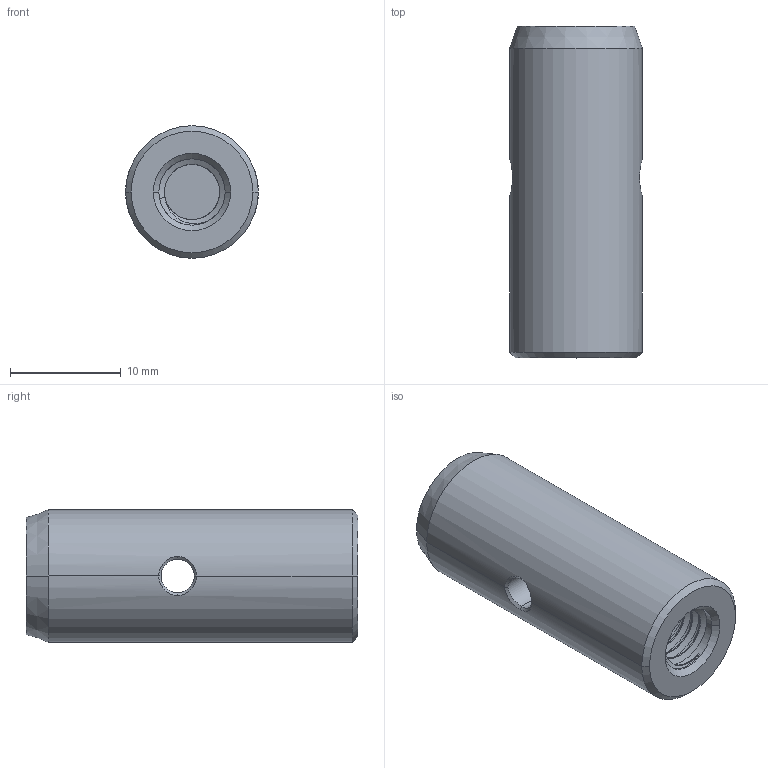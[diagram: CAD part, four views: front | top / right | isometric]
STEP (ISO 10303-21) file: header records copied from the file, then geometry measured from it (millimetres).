
FILE_DESCRIPTION((''),'2;1');
FILE_NAME('PCA3-S','2020-10-27T',('Administrator'),(''),'CREO PARAMETRIC BY PTC INC, 2015290','CREO PARAMETRIC BY PTC INC, 2015290','');
FILE_SCHEMA(('CONFIG_CONTROL_DESIGN'));
Length unit declared in the file: millimetre
Products named in the file (1): PCA3-S
Bounding box: 12 x 30 x 12 mm (x, y, z)
Volume: 2833.6 mm3; surface area: 1929.1 mm2
Topology: 1 solids, 1 shells, 123 faces, 323 edges, 202 vertices
Faces by surface type: cylinder 62, bspline 49, cone 8, plane 4
Entity records: 11845 total; most frequent: CARTESIAN_POINT 9283, ORIENTED_EDGE 646, EDGE_CURVE 323, DIRECTION 310, VERTEX_POINT 202, B_SPLINE_CURVE_WITH_KNOTS 181, EDGE_LOOP 125, FACE_OUTER_BOUND 123
